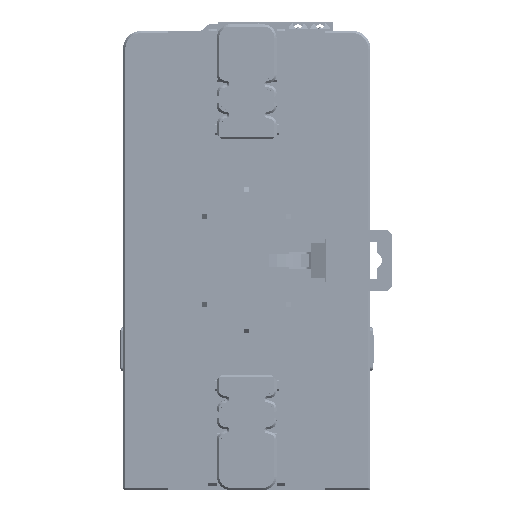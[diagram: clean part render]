
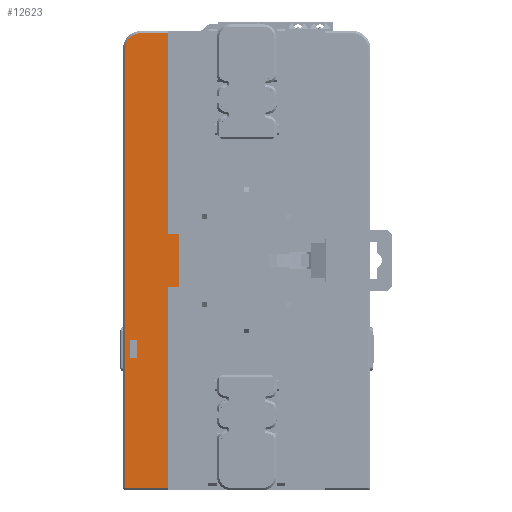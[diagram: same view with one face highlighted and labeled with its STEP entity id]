
A CAD part, front view. The second image highlights one B-rep face of the part: STEP entity #12623.
In plain terms, the highlighted planar face has unit normal (0, -1, 0).
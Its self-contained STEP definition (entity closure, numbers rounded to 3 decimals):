
#5790=FACE_BOUND('',#42209,.T.);
#5791=FACE_BOUND('',#42210,.T.);
#12623=ADVANCED_FACE('',(#5790,#5791),#22268,.T.);
#22268=PLANE('',#209460);
#42209=EDGE_LOOP('',(#122933,#122934,#122935,#122936,#122937,#122938,#122939,
#122940,#122941));
#42210=EDGE_LOOP('',(#122942,#122943,#122944,#122945));
#60004=LINE('',#312345,#82259);
#60147=LINE('',#312657,#82402);
#60148=LINE('',#312659,#82403);
#60149=LINE('',#312662,#82404);
#60150=LINE('',#312664,#82405);
#60151=LINE('',#312666,#82406);
#60152=LINE('',#312668,#82407);
#60153=LINE('',#312670,#82408);
#60154=LINE('',#312672,#82409);
#60155=LINE('',#312674,#82410);
#60156=LINE('',#312677,#82411);
#60157=LINE('',#312679,#82412);
#82259=VECTOR('',#244436,1.);
#82402=VECTOR('',#244743,1.);
#82403=VECTOR('',#244746,1.);
#82404=VECTOR('',#244747,1.);
#82405=VECTOR('',#244748,1.);
#82406=VECTOR('',#244749,1.);
#82407=VECTOR('',#244750,1.);
#82408=VECTOR('',#244751,1.);
#82409=VECTOR('',#244752,1.);
#82410=VECTOR('',#244753,1.);
#82411=VECTOR('',#244756,1.);
#82412=VECTOR('',#244757,1.);
#122933=ORIENTED_EDGE('',*,*,#183690,.T.);
#122934=ORIENTED_EDGE('',*,*,#183691,.T.);
#122935=ORIENTED_EDGE('',*,*,#183692,.F.);
#122936=ORIENTED_EDGE('',*,*,#183693,.F.);
#122937=ORIENTED_EDGE('',*,*,#183694,.F.);
#122938=ORIENTED_EDGE('',*,*,#183695,.F.);
#122939=ORIENTED_EDGE('',*,*,#183696,.F.);
#122940=ORIENTED_EDGE('',*,*,#183697,.T.);
#122941=ORIENTED_EDGE('',*,*,#183698,.T.);
#122942=ORIENTED_EDGE('',*,*,#183530,.T.);
#122943=ORIENTED_EDGE('',*,*,#183689,.T.);
#122944=ORIENTED_EDGE('',*,*,#183699,.F.);
#122945=ORIENTED_EDGE('',*,*,#183700,.F.);
#159430=VERTEX_POINT('',#312339);
#159433=VERTEX_POINT('',#312344);
#159520=VERTEX_POINT('',#312656);
#159521=VERTEX_POINT('',#312660);
#159522=VERTEX_POINT('',#312661);
#159523=VERTEX_POINT('',#312663);
#159524=VERTEX_POINT('',#312665);
#159525=VERTEX_POINT('',#312667);
#159526=VERTEX_POINT('',#312669);
#159527=VERTEX_POINT('',#312671);
#159528=VERTEX_POINT('',#312673);
#159529=VERTEX_POINT('',#312675);
#159530=VERTEX_POINT('',#312678);
#183530=EDGE_CURVE('',#159430,#159433,#60004,.T.);
#183689=EDGE_CURVE('',#159433,#159520,#60147,.T.);
#183690=EDGE_CURVE('',#159521,#159522,#60148,.T.);
#183691=EDGE_CURVE('',#159522,#159523,#60149,.T.);
#183692=EDGE_CURVE('',#159524,#159523,#60150,.T.);
#183693=EDGE_CURVE('',#159525,#159524,#60151,.T.);
#183694=EDGE_CURVE('',#159526,#159525,#60152,.T.);
#183695=EDGE_CURVE('',#159527,#159526,#60153,.T.);
#183696=EDGE_CURVE('',#159528,#159527,#60154,.T.);
#183697=EDGE_CURVE('',#159528,#159529,#60155,.T.);
#183698=EDGE_CURVE('',#159529,#159521,#199059,.T.);
#183699=EDGE_CURVE('',#159530,#159520,#60156,.T.);
#183700=EDGE_CURVE('',#159430,#159530,#60157,.T.);
#199059=CIRCLE('',#209459,3.5);
#209459=AXIS2_PLACEMENT_3D('',#312676,#244754,#244755);
#209460=AXIS2_PLACEMENT_3D('',#312680,#244758,#244759);
#244436=DIRECTION('',(0.,0.,1.));
#244743=DIRECTION('',(1.,0.,0.));
#244746=DIRECTION('',(0.,0.,-1.));
#244747=DIRECTION('',(1.,0.,0.));
#244748=DIRECTION('',(0.,0.,-1.));
#244749=DIRECTION('',(-1.,0.,0.));
#244750=DIRECTION('',(0.,0.,-1.));
#244751=DIRECTION('',(1.,0.,0.));
#244752=DIRECTION('',(0.,0.,-1.));
#244753=DIRECTION('',(-1.,0.,0.));
#244754=DIRECTION('',(0.,-1.,0.));
#244755=DIRECTION('',(0.,0.,-1.));
#244756=DIRECTION('',(0.,0.,1.));
#244757=DIRECTION('',(1.,0.,0.));
#244758=DIRECTION('',(0.,-1.,0.));
#244759=DIRECTION('',(-1.,0.,0.));
#312339=CARTESIAN_POINT('',(-331.11,148.342,374.066));
#312344=CARTESIAN_POINT('',(-331.11,148.342,378.066));
#312345=CARTESIAN_POINT('',(-331.11,148.342,426.638));
#312656=CARTESIAN_POINT('',(-329.41,148.342,378.066));
#312657=CARTESIAN_POINT('',(-322.338,148.342,378.066));
#312659=CARTESIAN_POINT('',(-332.088,148.342,426.638));
#312660=CARTESIAN_POINT('',(-332.088,148.342,444.138));
#312661=CARTESIAN_POINT('',(-332.088,148.342,344.638));
#312662=CARTESIAN_POINT('',(-322.338,148.342,344.638));
#312663=CARTESIAN_POINT('',(-322.338,148.342,344.638));
#312664=CARTESIAN_POINT('',(-322.338,148.342,357.138));
#312665=CARTESIAN_POINT('',(-322.338,148.342,390.138));
#312666=CARTESIAN_POINT('',(-334.719,148.342,390.138));
#312667=CARTESIAN_POINT('',(-319.88,148.342,390.138));
#312668=CARTESIAN_POINT('',(-319.88,148.342,417.64));
#312669=CARTESIAN_POINT('',(-319.88,148.342,402.138));
#312670=CARTESIAN_POINT('',(-334.719,148.342,402.138));
#312671=CARTESIAN_POINT('',(-322.338,148.342,402.138));
#312672=CARTESIAN_POINT('',(-322.338,148.342,437.388));
#312673=CARTESIAN_POINT('',(-322.338,148.342,447.638));
#312674=CARTESIAN_POINT('',(-322.338,148.342,447.638));
#312675=CARTESIAN_POINT('',(-328.588,148.342,447.638));
#312676=CARTESIAN_POINT('',(-328.588,148.342,444.138));
#312677=CARTESIAN_POINT('',(-329.41,148.342,426.638));
#312678=CARTESIAN_POINT('',(-329.41,148.342,374.066));
#312679=CARTESIAN_POINT('',(-322.338,148.342,374.066));
#312680=CARTESIAN_POINT('',(-322.338,148.342,426.638));
